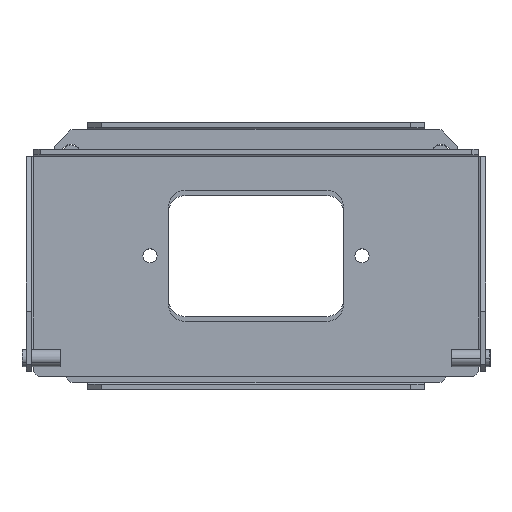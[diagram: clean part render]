
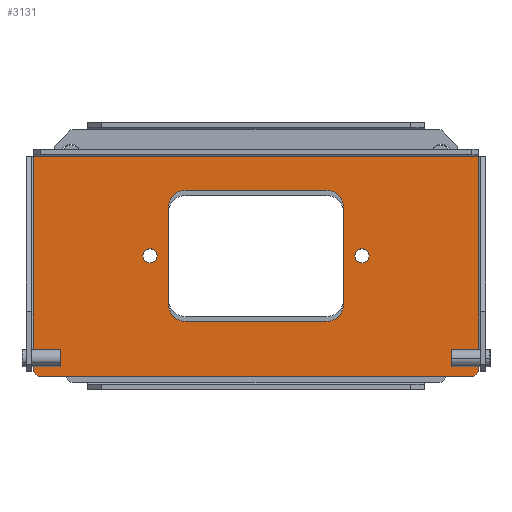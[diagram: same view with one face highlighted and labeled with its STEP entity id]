
A CAD part, top view. The second image highlights one B-rep face of the part: STEP entity #3131.
In plain terms, the highlighted planar face has unit normal (0, 0, 1).
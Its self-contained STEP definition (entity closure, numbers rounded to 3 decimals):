
#1776=CARTESIAN_POINT(' ',(66.15,-25.4,0.));
#1777=VERTEX_POINT(' ',#1776);
#1821=CARTESIAN_POINT(' ',(66.15,33.,0.));
#1822=VERTEX_POINT(' ',#1821);
#1836=CARTESIAN_POINT(' ',(66.15,33.,0.));
#1841=DIRECTION(' ',(0.,-1.,0.));
#1846=VECTOR(' ',#1841,1.);
#1851=LINE('',#1836,#1846);
#1856=EDGE_CURVE(' ',#1822,#1777,#1851,.T.);
#2291=DIRECTION(' ',(0.,-0.,1.));
#2296=CARTESIAN_POINT(' ',(-66.15,-32.35,0.));
#2301=DIRECTION(' ',(1.,0.,-0.));
#2306=AXIS2_PLACEMENT_3D(' ',#2296,#2291,#2301);
#2311=PLANE('NONE',#2306);
#2316=CARTESIAN_POINT(' ',(-64.7,-32.35,0.));
#2321=DIRECTION(' ',(1.,0.,0.));
#2326=VECTOR(' ',#2321,1.);
#2331=LINE('',#2316,#2326);
#2336=CARTESIAN_POINT(' ',(-64.7,-32.35,0.));
#2337=VERTEX_POINT(' ',#2336);
#2341=CARTESIAN_POINT(' ',(64.7,-32.35,0.));
#2342=VERTEX_POINT(' ',#2341);
#2346=EDGE_CURVE(' ',#2337,#2342,#2331,.T.);
#2351=ORIENTED_EDGE(' ',*,*,#2346,.T.);
#2356=CARTESIAN_POINT(' ',(64.7,-32.35,0.));
#2361=DIRECTION(' ',(0.707,0.707,0.));
#2366=VECTOR(' ',#2361,1.);
#2371=LINE('',#2356,#2366);
#2376=CARTESIAN_POINT(' ',(66.15,-30.9,0.));
#2377=VERTEX_POINT(' ',#2376);
#2381=EDGE_CURVE(' ',#2342,#2377,#2371,.T.);
#2386=ORIENTED_EDGE(' ',*,*,#2381,.T.);
#2391=CARTESIAN_POINT(' ',(66.15,-30.9,0.));
#2396=DIRECTION(' ',(0.,1.,0.));
#2401=VECTOR(' ',#2396,1.);
#2406=LINE('',#2391,#2401);
#2411=EDGE_CURVE(' ',#2377,#1777,#2406,.T.);
#2416=ORIENTED_EDGE(' ',*,*,#2411,.T.);
#2421=ORIENTED_EDGE(' ',*,*,#1856,.F.);
#2426=CARTESIAN_POINT(' ',(66.15,33.,0.));
#2431=DIRECTION(' ',(0.,-1.,0.));
#2436=VECTOR(' ',#2431,1.);
#2441=LINE('',#2426,#2436);
#2446=CARTESIAN_POINT(' ',(66.15,33.,0.));
#2447=VERTEX_POINT(' ',#2446);
#2451=EDGE_CURVE(' ',#2447,#1822,#2441,.T.);
#2456=ORIENTED_EDGE(' ',*,*,#2451,.F.);
#2461=CARTESIAN_POINT(' ',(-66.15,33.,0.));
#2466=DIRECTION(' ',(1.,0.,0.));
#2471=VECTOR(' ',#2466,1.);
#2476=LINE('',#2461,#2471);
#2481=CARTESIAN_POINT(' ',(-66.15,33.,0.));
#2482=VERTEX_POINT(' ',#2481);
#2486=EDGE_CURVE(' ',#2482,#2447,#2476,.T.);
#2491=ORIENTED_EDGE(' ',*,*,#2486,.F.);
#2496=CARTESIAN_POINT(' ',(-66.15,33.,0.));
#2501=DIRECTION(' ',(0.,-1.,0.));
#2506=VECTOR(' ',#2501,1.);
#2511=LINE('',#2496,#2506);
#2516=CARTESIAN_POINT(' ',(-66.15,33.,0.));
#2517=VERTEX_POINT(' ',#2516);
#2521=EDGE_CURVE(' ',#2482,#2517,#2511,.T.);
#2526=ORIENTED_EDGE(' ',*,*,#2521,.T.);
#2531=CARTESIAN_POINT(' ',(-66.15,-25.4,0.));
#2536=DIRECTION(' ',(0.,1.,0.));
#2541=VECTOR(' ',#2536,1.);
#2546=LINE('',#2531,#2541);
#2551=CARTESIAN_POINT(' ',(-66.15,-25.4,0.));
#2552=VERTEX_POINT(' ',#2551);
#2556=EDGE_CURVE(' ',#2552,#2517,#2546,.T.);
#2561=ORIENTED_EDGE(' ',*,*,#2556,.F.);
#2566=CARTESIAN_POINT(' ',(-66.15,-30.9,0.));
#2571=DIRECTION(' ',(0.,1.,0.));
#2576=VECTOR(' ',#2571,1.);
#2581=LINE('',#2566,#2576);
#2586=CARTESIAN_POINT(' ',(-66.15,-30.9,0.));
#2587=VERTEX_POINT(' ',#2586);
#2591=EDGE_CURVE(' ',#2587,#2552,#2581,.T.);
#2596=ORIENTED_EDGE(' ',*,*,#2591,.F.);
#2601=CARTESIAN_POINT(' ',(-66.15,-30.9,0.));
#2606=DIRECTION(' ',(0.707,-0.707,0.));
#2611=VECTOR(' ',#2606,1.);
#2616=LINE('',#2601,#2611);
#2621=EDGE_CURVE(' ',#2587,#2337,#2616,.T.);
#2626=ORIENTED_EDGE(' ',*,*,#2621,.T.);
#2631=EDGE_LOOP(' ',(#2351,#2386,#2416,#2421,#2456,#2491,#2526,#2561,#2596,#2626));
#2636=FACE_OUTER_BOUND(' ',#2631,.T.);
#2641=CARTESIAN_POINT(' ',(26.,-11.,0.));
#2646=DIRECTION(' ',(0.,1.,0.));
#2651=VECTOR(' ',#2646,1.);
#2656=LINE('',#2641,#2651);
#2661=CARTESIAN_POINT(' ',(26.,-11.,0.));
#2662=VERTEX_POINT(' ',#2661);
#2666=CARTESIAN_POINT(' ',(26.,18.,0.));
#2667=VERTEX_POINT(' ',#2666);
#2671=EDGE_CURVE(' ',#2662,#2667,#2656,.T.);
#2676=ORIENTED_EDGE(' ',*,*,#2671,.F.);
#2681=CARTESIAN_POINT(' ',(21.,-11.,0.));
#2686=DIRECTION(' ',(0.,0.,-1.));
#2691=DIRECTION(' ',(1.,0.,0.));
#2696=AXIS2_PLACEMENT_3D(' ',#2681,#2686,#2691);
#2701=CIRCLE('',#2696,5.);
#2706=CARTESIAN_POINT(' ',(21.,-16.,0.));
#2707=VERTEX_POINT(' ',#2706);
#2711=EDGE_CURVE(' ',#2662,#2707,#2701,.T.);
#2716=ORIENTED_EDGE(' ',*,*,#2711,.T.);
#2721=CARTESIAN_POINT(' ',(-21.,-16.,0.));
#2726=DIRECTION(' ',(1.,0.,0.));
#2731=VECTOR(' ',#2726,1.);
#2736=LINE('',#2721,#2731);
#2741=CARTESIAN_POINT(' ',(-21.,-16.,0.));
#2742=VERTEX_POINT(' ',#2741);
#2746=EDGE_CURVE(' ',#2742,#2707,#2736,.T.);
#2751=ORIENTED_EDGE(' ',*,*,#2746,.F.);
#2756=CARTESIAN_POINT(' ',(-21.,-11.,0.));
#2761=DIRECTION(' ',(0.,0.,-1.));
#2766=DIRECTION(' ',(0.,-1.,0.));
#2771=AXIS2_PLACEMENT_3D(' ',#2756,#2761,#2766);
#2776=CIRCLE('',#2771,5.);
#2781=CARTESIAN_POINT(' ',(-26.,-11.,0.));
#2782=VERTEX_POINT(' ',#2781);
#2786=EDGE_CURVE(' ',#2742,#2782,#2776,.T.);
#2791=ORIENTED_EDGE(' ',*,*,#2786,.T.);
#2796=CARTESIAN_POINT(' ',(-26.,18.,0.));
#2801=DIRECTION(' ',(0.,-1.,0.));
#2806=VECTOR(' ',#2801,1.);
#2811=LINE('',#2796,#2806);
#2816=CARTESIAN_POINT(' ',(-26.,18.,0.));
#2817=VERTEX_POINT(' ',#2816);
#2821=EDGE_CURVE(' ',#2817,#2782,#2811,.T.);
#2826=ORIENTED_EDGE(' ',*,*,#2821,.F.);
#2831=CARTESIAN_POINT(' ',(-21.,18.,0.));
#2836=DIRECTION(' ',(0.,0.,-1.));
#2841=DIRECTION(' ',(-1.,0.,0.));
#2846=AXIS2_PLACEMENT_3D(' ',#2831,#2836,#2841);
#2851=CIRCLE('',#2846,5.);
#2856=CARTESIAN_POINT(' ',(-21.,23.,0.));
#2857=VERTEX_POINT(' ',#2856);
#2861=EDGE_CURVE(' ',#2817,#2857,#2851,.T.);
#2866=ORIENTED_EDGE(' ',*,*,#2861,.T.);
#2871=CARTESIAN_POINT(' ',(21.,23.,0.));
#2876=DIRECTION(' ',(-1.,0.,0.));
#2881=VECTOR(' ',#2876,1.);
#2886=LINE('',#2871,#2881);
#2891=CARTESIAN_POINT(' ',(21.,23.,0.));
#2892=VERTEX_POINT(' ',#2891);
#2896=EDGE_CURVE(' ',#2892,#2857,#2886,.T.);
#2901=ORIENTED_EDGE(' ',*,*,#2896,.F.);
#2906=CARTESIAN_POINT(' ',(21.,18.,0.));
#2911=DIRECTION(' ',(0.,0.,-1.));
#2916=DIRECTION(' ',(0.,1.,0.));
#2921=AXIS2_PLACEMENT_3D(' ',#2906,#2911,#2916);
#2926=CIRCLE('',#2921,5.);
#2931=EDGE_CURVE(' ',#2892,#2667,#2926,.T.);
#2936=ORIENTED_EDGE(' ',*,*,#2931,.T.);
#2941=EDGE_LOOP(' ',(#2676,#2716,#2751,#2791,#2826,#2866,#2901,#2936));
#2946=FACE_BOUND(' ',#2941,.T.);
#2951=CARTESIAN_POINT(' ',(31.5,3.5,0.));
#2956=DIRECTION(' ',(0.,0.,1.));
#2961=DIRECTION(' ',(1.,0.,0.));
#2966=AXIS2_PLACEMENT_3D(' ',#2951,#2956,#2961);
#2971=CIRCLE('',#2966,2.1);
#2976=CARTESIAN_POINT(' ',(33.6,3.5,0.));
#2977=VERTEX_POINT(' ',#2976);
#2981=CARTESIAN_POINT(' ',(29.4,3.5,0.));
#2982=VERTEX_POINT(' ',#2981);
#2986=EDGE_CURVE(' ',#2977,#2982,#2971,.T.);
#2991=ORIENTED_EDGE(' ',*,*,#2986,.F.);
#2996=CARTESIAN_POINT(' ',(31.5,3.5,0.));
#3001=DIRECTION(' ',(0.,-0.,1.));
#3006=DIRECTION(' ',(-1.,0.,0.));
#3011=AXIS2_PLACEMENT_3D(' ',#2996,#3001,#3006);
#3016=CIRCLE('',#3011,2.1);
#3021=EDGE_CURVE(' ',#2982,#2977,#3016,.T.);
#3026=ORIENTED_EDGE(' ',*,*,#3021,.F.);
#3031=EDGE_LOOP(' ',(#2991,#3026));
#3036=FACE_BOUND(' ',#3031,.T.);
#3041=CARTESIAN_POINT(' ',(-31.5,3.5,0.));
#3046=DIRECTION(' ',(0.,0.,1.));
#3051=DIRECTION(' ',(1.,0.,0.));
#3056=AXIS2_PLACEMENT_3D(' ',#3041,#3046,#3051);
#3061=CIRCLE('',#3056,2.1);
#3066=CARTESIAN_POINT(' ',(-29.4,3.5,0.));
#3067=VERTEX_POINT(' ',#3066);
#3071=CARTESIAN_POINT(' ',(-33.6,3.5,0.));
#3072=VERTEX_POINT(' ',#3071);
#3076=EDGE_CURVE(' ',#3067,#3072,#3061,.T.);
#3081=ORIENTED_EDGE(' ',*,*,#3076,.F.);
#3086=CARTESIAN_POINT(' ',(-31.5,3.5,0.));
#3091=DIRECTION(' ',(0.,-0.,1.));
#3096=DIRECTION(' ',(-1.,0.,0.));
#3101=AXIS2_PLACEMENT_3D(' ',#3086,#3091,#3096);
#3106=CIRCLE('',#3101,2.1);
#3111=EDGE_CURVE(' ',#3072,#3067,#3106,.T.);
#3116=ORIENTED_EDGE(' ',*,*,#3111,.F.);
#3121=EDGE_LOOP(' ',(#3081,#3116));
#3126=FACE_BOUND(' ',#3121,.T.);
#3131=ADVANCED_FACE('NONE',(#2636,#2946,#3036,#3126),#2311,.T.);
